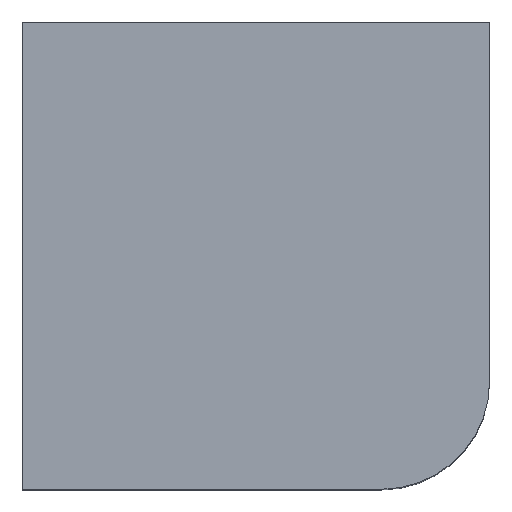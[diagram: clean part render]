
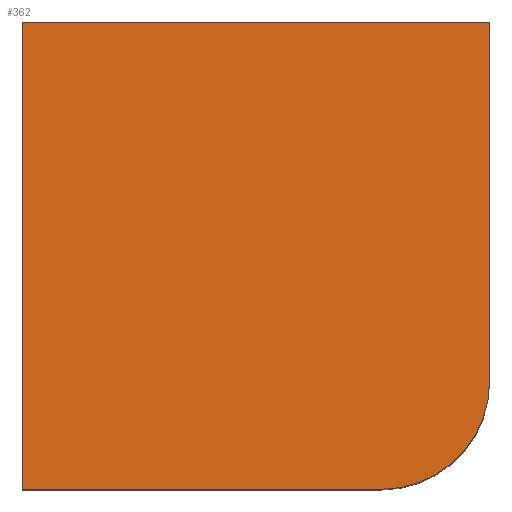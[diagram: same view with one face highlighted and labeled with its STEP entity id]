
A CAD part, top view. The second image highlights one B-rep face of the part: STEP entity #362.
In plain terms, the highlighted planar face has unit normal (0, 0, 1).
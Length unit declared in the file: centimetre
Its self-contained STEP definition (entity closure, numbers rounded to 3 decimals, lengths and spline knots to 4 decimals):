
#7 = VERTEX_POINT ( 'NONE', #421 ) ;
#11 = ORIENTED_EDGE ( 'NONE', *, *, #388, .T. ) ;
#12 = DIRECTION ( 'NONE',  ( 0., -1., 0. ) ) ;
#21 = DIRECTION ( 'NONE',  ( 1., 0., 0. ) ) ;
#36 = CARTESIAN_POINT ( 'NONE',  ( 0., 1000., 1000. ) ) ;
#64 = CARTESIAN_POINT ( 'NONE',  ( 0., 0., 1000. ) ) ;
#68 = PLANE ( 'NONE',  #148 ) ;
#98 = CARTESIAN_POINT ( 'NONE',  ( 769.2449, 230.7551, 1000. ) ) ;
#103 = DIRECTION ( 'NONE',  ( 0., 0., 1. ) ) ;
#120 = VECTOR ( 'NONE', #178, 100. ) ;
#148 = AXIS2_PLACEMENT_3D ( 'NONE', #221, #103, #415 ) ;
#149 = ORIENTED_EDGE ( 'NONE', *, *, #276, .T. ) ;
#152 = CARTESIAN_POINT ( 'NONE',  ( 1000., 230.7551, 1000. ) ) ;
#178 = DIRECTION ( 'NONE',  ( -1., 0., 0. ) ) ;
#183 = VECTOR ( 'NONE', #217, 100. ) ;
#213 = CARTESIAN_POINT ( 'NONE',  ( 0., 1000., 1000. ) ) ;
#214 = ORIENTED_EDGE ( 'NONE', *, *, #309, .T. ) ;
#217 = DIRECTION ( 'NONE',  ( 1., 0., 0. ) ) ;
#221 = CARTESIAN_POINT ( 'NONE',  ( 0., 0., 1000. ) ) ;
#227 = EDGE_CURVE ( 'NONE', #338, #321, #367, .T. ) ;
#236 = VERTEX_POINT ( 'NONE', #152 ) ;
#253 = AXIS2_PLACEMENT_3D ( 'NONE', #98, #294, #21 ) ;
#258 = FACE_OUTER_BOUND ( 'NONE', #487, .T. ) ;
#260 = LINE ( 'NONE', #213, #120 ) ;
#276 = EDGE_CURVE ( 'NONE', #236, #342, #448, .T. ) ;
#294 = DIRECTION ( 'NONE',  ( 0., 0., 1. ) ) ;
#309 = EDGE_CURVE ( 'NONE', #342, #338, #260, .T. ) ;
#321 = VERTEX_POINT ( 'NONE', #340 ) ;
#338 = VERTEX_POINT ( 'NONE', #380 ) ;
#339 = EDGE_CURVE ( 'NONE', #7, #236, #473, .T. ) ;
#340 = CARTESIAN_POINT ( 'NONE',  ( 0., 0., 1000. ) ) ;
#342 = VERTEX_POINT ( 'NONE', #498 ) ;
#353 = CARTESIAN_POINT ( 'NONE',  ( 1000., 1000., 1000. ) ) ;
#362 = ADVANCED_FACE ( 'NONE', ( #258 ), #68, .T. ) ;
#367 = LINE ( 'NONE', #36, #501 ) ;
#380 = CARTESIAN_POINT ( 'NONE',  ( 0., 1000., 1000. ) ) ;
#388 = EDGE_CURVE ( 'NONE', #321, #7, #451, .T. ) ;
#393 = ORIENTED_EDGE ( 'NONE', *, *, #339, .T. ) ;
#415 = DIRECTION ( 'NONE',  ( 1., 0., 0. ) ) ;
#421 = CARTESIAN_POINT ( 'NONE',  ( 769.2449, 0., 1000. ) ) ;
#446 = ORIENTED_EDGE ( 'NONE', *, *, #227, .T. ) ;
#448 = LINE ( 'NONE', #353, #496 ) ;
#451 = LINE ( 'NONE', #64, #183 ) ;
#473 = CIRCLE ( 'NONE', #253, 230.7551 ) ;
#487 = EDGE_LOOP ( 'NONE', ( #11, #393, #149, #214, #446 ) ) ;
#496 = VECTOR ( 'NONE', #510, 100. ) ;
#498 = CARTESIAN_POINT ( 'NONE',  ( 1000., 1000., 1000. ) ) ;
#501 = VECTOR ( 'NONE', #12, 100. ) ;
#510 = DIRECTION ( 'NONE',  ( 0., 1., 0. ) ) ;
